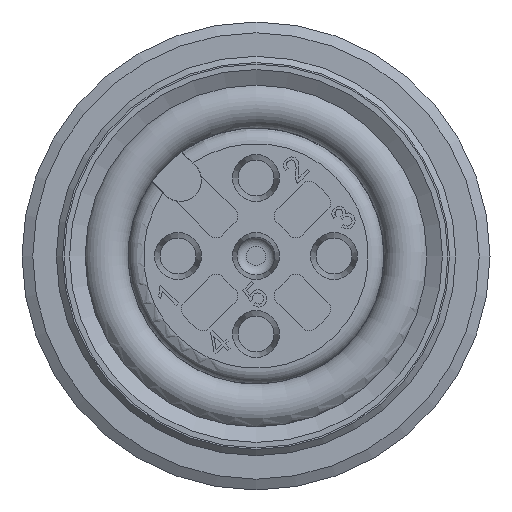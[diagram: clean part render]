
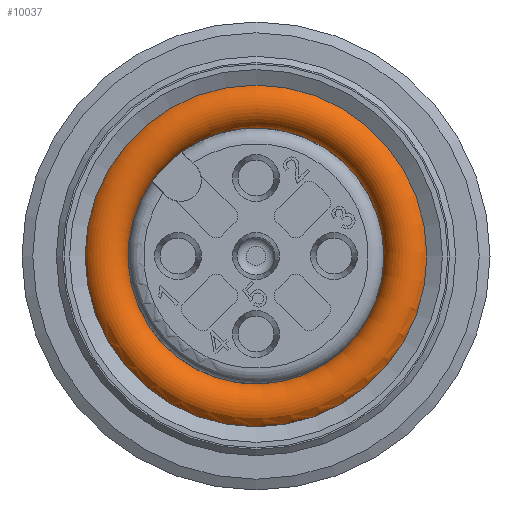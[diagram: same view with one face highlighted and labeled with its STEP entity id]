
A CAD part, left-side view. The second image highlights one B-rep face of the part: STEP entity #10037.
In plain terms, the highlighted toroidal (fillet/blend) face has major radius 4.845 mm and minor radius 0.75 mm.
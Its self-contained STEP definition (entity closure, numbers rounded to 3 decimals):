
#211=TOROIDAL_SURFACE('',#10790,4.845,0.75);
#875=FACE_OUTER_BOUND('',#1468,.T.);
#1468=EDGE_LOOP('',(#6864,#6865,#6866,#6867,#6868,#6869,#6870,#6871,#6872,
#6873,#6874,#6875,#6876,#6877,#6878));
#3199=CIRCLE('',#10508,5.475);
#3200=CIRCLE('',#10509,5.475);
#3201=CIRCLE('',#10510,5.475);
#3370=CIRCLE('',#10791,0.75);
#3371=CIRCLE('',#10792,4.1);
#3372=CIRCLE('',#10793,0.74);
#3373=CIRCLE('',#10794,4.1);
#3374=CIRCLE('',#10795,0.75);
#3375=CIRCLE('',#10796,4.723);
#3376=CIRCLE('',#10797,4.723);
#3377=CIRCLE('',#10798,4.1);
#3378=CIRCLE('',#10799,0.74);
#3379=CIRCLE('',#10800,4.1);
#3795=VERTEX_POINT('',#14427);
#3796=VERTEX_POINT('',#14428);
#3797=VERTEX_POINT('',#14430);
#3997=VERTEX_POINT('',#19384);
#3998=VERTEX_POINT('',#19386);
#3999=VERTEX_POINT('',#19388);
#4000=VERTEX_POINT('',#19390);
#4001=VERTEX_POINT('',#19392);
#4002=VERTEX_POINT('',#19394);
#4003=VERTEX_POINT('',#19397);
#4004=VERTEX_POINT('',#19399);
#4747=EDGE_CURVE('',#3795,#3796,#3199,.T.);
#4748=EDGE_CURVE('',#3797,#3795,#3200,.T.);
#4749=EDGE_CURVE('',#3796,#3797,#3201,.T.);
#5070=EDGE_CURVE('',#3797,#3997,#3370,.T.);
#5071=EDGE_CURVE('',#3998,#3997,#3371,.T.);
#5072=EDGE_CURVE('',#3998,#3999,#3372,.T.);
#5073=EDGE_CURVE('',#4000,#3999,#3373,.T.);
#5074=EDGE_CURVE('',#4000,#4001,#3374,.T.);
#5075=EDGE_CURVE('',#4002,#4001,#3375,.T.);
#5076=EDGE_CURVE('',#4001,#4002,#3376,.T.);
#5077=EDGE_CURVE('',#4003,#4000,#3377,.T.);
#5078=EDGE_CURVE('',#4003,#4004,#3378,.T.);
#5079=EDGE_CURVE('',#3997,#4004,#3379,.T.);
#6864=ORIENTED_EDGE('',*,*,#4747,.T.);
#6865=ORIENTED_EDGE('',*,*,#4749,.T.);
#6866=ORIENTED_EDGE('',*,*,#5070,.T.);
#6867=ORIENTED_EDGE('',*,*,#5071,.F.);
#6868=ORIENTED_EDGE('',*,*,#5072,.T.);
#6869=ORIENTED_EDGE('',*,*,#5073,.F.);
#6870=ORIENTED_EDGE('',*,*,#5074,.T.);
#6871=ORIENTED_EDGE('',*,*,#5075,.F.);
#6872=ORIENTED_EDGE('',*,*,#5076,.F.);
#6873=ORIENTED_EDGE('',*,*,#5074,.F.);
#6874=ORIENTED_EDGE('',*,*,#5077,.F.);
#6875=ORIENTED_EDGE('',*,*,#5078,.T.);
#6876=ORIENTED_EDGE('',*,*,#5079,.F.);
#6877=ORIENTED_EDGE('',*,*,#5070,.F.);
#6878=ORIENTED_EDGE('',*,*,#4748,.T.);
#10037=ADVANCED_FACE('',(#875),#211,.T.);
#10508=AXIS2_PLACEMENT_3D('',#14429,#11619,#11620);
#10509=AXIS2_PLACEMENT_3D('',#14431,#11621,#11622);
#10510=AXIS2_PLACEMENT_3D('',#14432,#11623,#11624);
#10790=AXIS2_PLACEMENT_3D('',#19383,#12267,#12268);
#10791=AXIS2_PLACEMENT_3D('',#19385,#12269,#12270);
#10792=AXIS2_PLACEMENT_3D('',#19387,#12271,#12272);
#10793=AXIS2_PLACEMENT_3D('',#19389,#12273,#12274);
#10794=AXIS2_PLACEMENT_3D('',#19391,#12275,#12276);
#10795=AXIS2_PLACEMENT_3D('',#19393,#12277,#12278);
#10796=AXIS2_PLACEMENT_3D('',#19395,#12279,#12280);
#10797=AXIS2_PLACEMENT_3D('',#19396,#12281,#12282);
#10798=AXIS2_PLACEMENT_3D('',#19398,#12283,#12284);
#10799=AXIS2_PLACEMENT_3D('',#19400,#12285,#12286);
#10800=AXIS2_PLACEMENT_3D('',#19401,#12287,#12288);
#11619=DIRECTION('center_axis',(-1.,0.,0.));
#11620=DIRECTION('ref_axis',(0.,0.,-1.));
#11621=DIRECTION('center_axis',(-1.,0.,0.));
#11622=DIRECTION('ref_axis',(0.,0.,-1.));
#11623=DIRECTION('center_axis',(-1.,0.,0.));
#11624=DIRECTION('ref_axis',(0.,0.,-1.));
#12267=DIRECTION('center_axis',(1.,0.,0.));
#12268=DIRECTION('ref_axis',(0.,0.,-1.));
#12269=DIRECTION('center_axis',(0.,-1.,0.));
#12270=DIRECTION('ref_axis',(0.,0.,1.));
#12271=DIRECTION('center_axis',(-1.,0.,0.));
#12272=DIRECTION('ref_axis',(0.,0.,-1.));
#12273=DIRECTION('center_axis',(0.,-0.707,
0.707));
#12274=DIRECTION('ref_axis',(0.117,-0.702,-0.702));
#12275=DIRECTION('center_axis',(1.,0.,0.));
#12276=DIRECTION('ref_axis',(0.,0.,1.));
#12277=DIRECTION('center_axis',(0.,-1.,0.));
#12278=DIRECTION('ref_axis',(0.,0.,1.));
#12279=DIRECTION('center_axis',(-1.,0.,0.));
#12280=DIRECTION('ref_axis',(0.,0.,-1.));
#12281=DIRECTION('center_axis',(-1.,0.,0.));
#12282=DIRECTION('ref_axis',(0.,0.,-1.));
#12283=DIRECTION('center_axis',(1.,0.,0.));
#12284=DIRECTION('ref_axis',(0.,0.,1.));
#12285=DIRECTION('center_axis',(0.,0.707,
-0.707));
#12286=DIRECTION('ref_axis',(-0.117,-0.702,-0.702));
#12287=DIRECTION('center_axis',(-1.,0.,0.));
#12288=DIRECTION('ref_axis',(0.,0.,-1.));
#14427=CARTESIAN_POINT('',(8.103,0.,-5.475));
#14428=CARTESIAN_POINT('',(8.103,-5.475,0.));
#14429=CARTESIAN_POINT('Origin',(8.103,0.,0.));
#14430=CARTESIAN_POINT('',(8.103,0.,5.475));
#14431=CARTESIAN_POINT('Origin',(8.103,0.,0.));
#14432=CARTESIAN_POINT('Origin',(8.103,0.,0.));
#19383=CARTESIAN_POINT('Origin',(8.51,0.,0.));
#19384=CARTESIAN_POINT('',(8.424,0.,4.1));
#19385=CARTESIAN_POINT('Origin',(8.51,0.,4.845));
#19386=CARTESIAN_POINT('',(8.424,3.337,2.382));
#19387=CARTESIAN_POINT('Origin',(8.424,0.,0.));
#19388=CARTESIAN_POINT('',(8.596,3.337,2.382));
#19389=CARTESIAN_POINT('Origin',(8.51,3.856,2.902));
#19390=CARTESIAN_POINT('',(8.596,0.,4.1));
#19391=CARTESIAN_POINT('Origin',(8.596,0.,0.));
#19392=CARTESIAN_POINT('',(9.25,0.,4.723));
#19393=CARTESIAN_POINT('Origin',(8.51,0.,4.845));
#19394=CARTESIAN_POINT('',(9.25,0.,-4.723));
#19395=CARTESIAN_POINT('Origin',(9.25,0.,0.));
#19396=CARTESIAN_POINT('Origin',(9.25,0.,0.));
#19397=CARTESIAN_POINT('',(8.596,2.382,3.337));
#19398=CARTESIAN_POINT('Origin',(8.596,0.,0.));
#19399=CARTESIAN_POINT('',(8.424,2.382,3.337));
#19400=CARTESIAN_POINT('Origin',(8.51,2.902,3.856));
#19401=CARTESIAN_POINT('Origin',(8.424,0.,0.));
